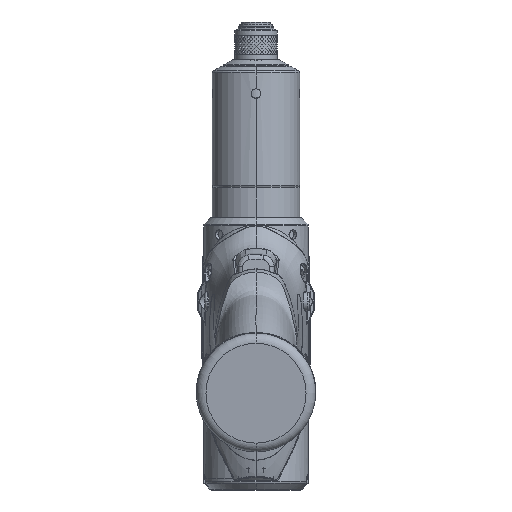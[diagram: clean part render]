
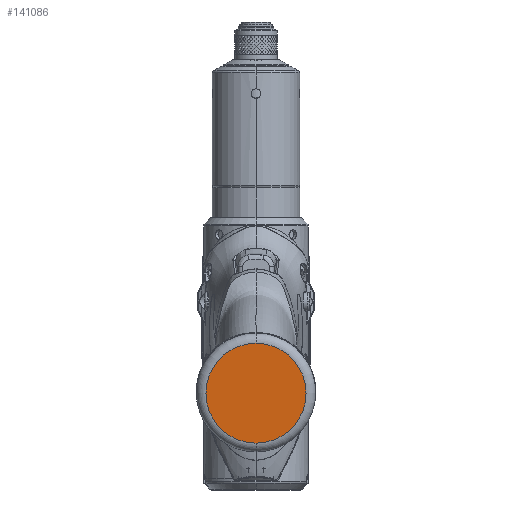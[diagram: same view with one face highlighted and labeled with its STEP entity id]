
A CAD part, front view. The second image highlights one B-rep face of the part: STEP entity #141086.
In plain terms, the highlighted planar face has unit normal (0, -0.996, -0.086).
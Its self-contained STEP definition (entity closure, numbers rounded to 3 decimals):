
#33697=CARTESIAN_POINT('',(0.,-141.731,-2.37));
#33698=DIRECTION('',(0.,0.996,0.086));
#33699=DIRECTION('',(0.,-0.086,0.996));
#33700=AXIS2_PLACEMENT_3D('',#33697,#33698,#33699);
#33702=CARTESIAN_POINT('',(0.,-141.731,-2.37));
#33703=DIRECTION('',(0.,-0.996,-0.086));
#33704=DIRECTION('',(0.,-0.086,0.996));
#33705=AXIS2_PLACEMENT_3D('',#33702,#33703,#33704);
#55012=CARTESIAN_POINT('',(0.,-143.538,18.552));
#55013=VERTEX_POINT('',#55012);
#55014=CARTESIAN_POINT('',(0.,-139.925,-23.292));
#55015=VERTEX_POINT('',#55014);
#141077=CARTESIAN_POINT('',(0.,-141.731,-2.37));
#141078=DIRECTION('',(0.,-0.996,-0.086));
#141079=DIRECTION('',(0.,-0.086,0.996));
#141080=AXIS2_PLACEMENT_3D('',#141077,#141078,#141079);
#141081=PLANE('',#141080);
#141082=ORIENTED_EDGE('',*,*,#141072,.T.);
#141083=ORIENTED_EDGE('',*,*,#141056,.F.);
#141084=EDGE_LOOP('',(#141082,#141083));
#141085=FACE_OUTER_BOUND('',#141084,.F.);
#33701=CIRCLE('',#33700,21.);
#33706=CIRCLE('',#33705,21.);
#141056=EDGE_CURVE('',#55013,#55015,#33706,.T.);
#141072=EDGE_CURVE('',#55013,#55015,#33701,.T.);
#141086=ADVANCED_FACE('',(#141085),#141081,.T.);
